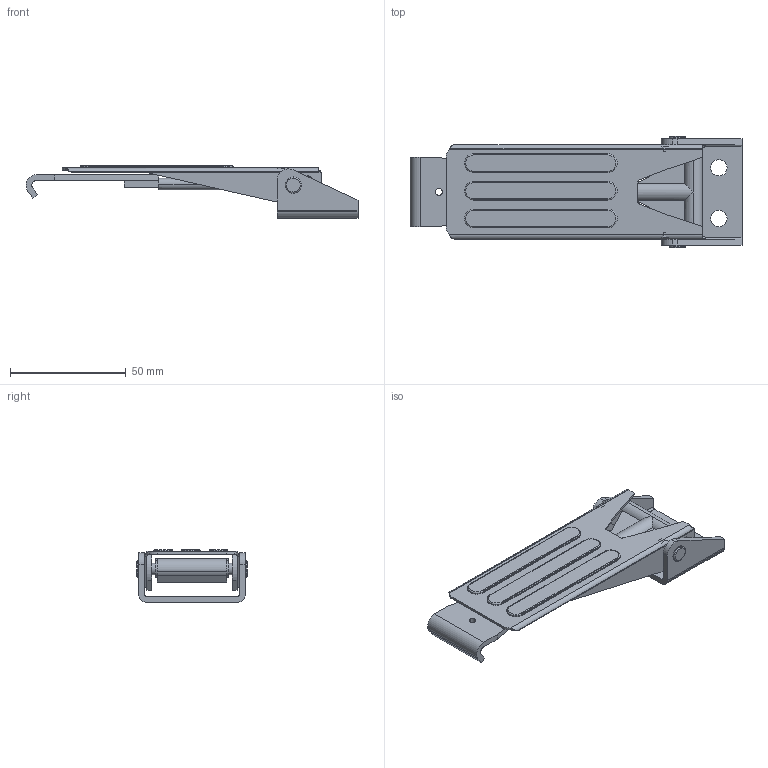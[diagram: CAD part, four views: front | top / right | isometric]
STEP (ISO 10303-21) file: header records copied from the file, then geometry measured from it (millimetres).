
FILE_DESCRIPTION((''),'2;1');
FILE_NAME('1029.stp','2015-11-16T13:52:48',(''),(''),'Mechanical Desktop 2006','Mechanical Desktop 2006',', , ');
FILE_SCHEMA(('CONFIG_CONTROL_DESIGN'));
Length unit declared in the file: millimetre
Products named in the file (13): 1029; 1029.1; ~~~~~~TEIL1; 1029.2; ~~~~~TEIL1; 1029.3; ~~~~TEIL1; 1029.5; ~~~TEIL1; 1029.6; ~TEIL1; 1029.4; ~~~~~~~TEIL1
Assembly tree (14 placements, depth 3):
  1029
    1029.1
      ~~~~~~TEIL1
    1029.2
      ~~~~~TEIL1
    1029.3  x2
      ~~~~TEIL1
    1029.5  x2
      ~~~TEIL1
    1029.6
      ~TEIL1
    1029.4
      ~~~~~~~TEIL1
Bounding box: 143.59 x 48 x 22.86 mm (x, y, z)
Volume: 20566.3 mm3; surface area: 25429.4 mm2
Topology: 8 solids, 8 shells, 244 faces, 621 edges, 390 vertices
Faces by surface type: cylinder 121, plane 109, torus 10, bspline 4
Entity records: 7286 total; most frequent: CARTESIAN_POINT 1381, DIRECTION 1254, ORIENTED_EDGE 1150, EDGE_CURVE 575, AXIS2_PLACEMENT_3D 468, VERTEX_POINT 360, VECTOR 318, LINE 318
